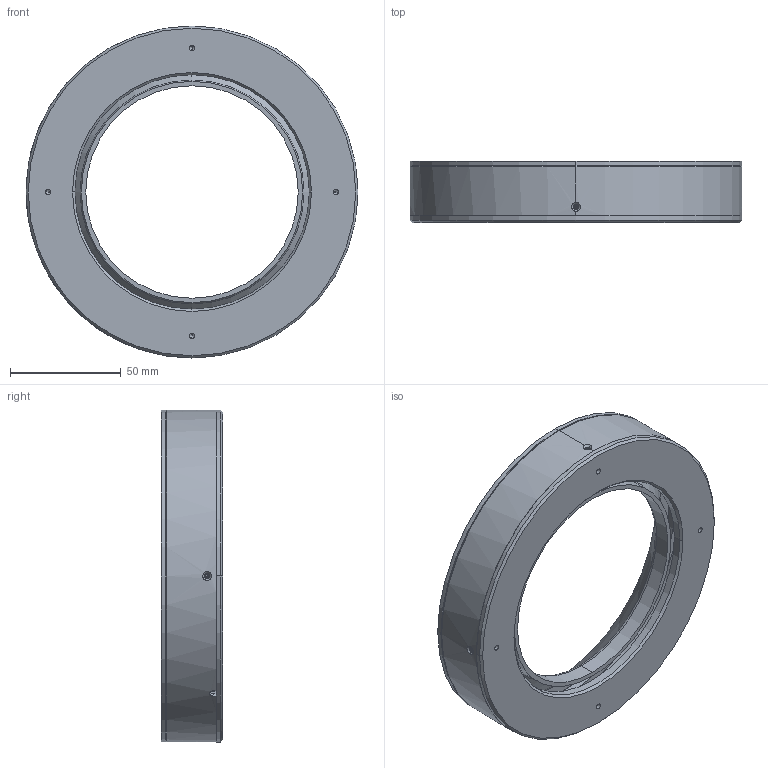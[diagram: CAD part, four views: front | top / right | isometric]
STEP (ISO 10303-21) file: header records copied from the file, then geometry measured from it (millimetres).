
FILE_DESCRIPTION (( 'STEP AP203' ), '1' );
FILE_NAME ('P-RL-150-45-00.STEP', '2025-09-16T10:43:36', ( '' ), ( '' ), 'SwSTEP 2.0', 'SolidWorks 2022', '' );
FILE_SCHEMA (( 'CONFIG_CONTROL_DESIGN' ));
Length unit declared in the file: millimetre
Products named in the file (4): P-RL-150-45; P-RL-150-45-002; P-RL-150-45-001; P-RL-150-45-00
Assembly tree (3 placements, depth 2):
  P-RL-150-45-00
    P-RL-150-45
    P-RL-150-45-001
    P-RL-150-45-002
Bounding box: 150 x 27.7 x 150 mm (x, y, z)
Volume: 117618.2 mm3; surface area: 84817 mm2
Topology: 3 solids, 3 shells, 138 faces, 348 edges, 206 vertices
Faces by surface type: cylinder 67, cone 49, plane 14, torus 8
Entity records: 4982 total; most frequent: CARTESIAN_POINT 1250, DIRECTION 736, ORIENTED_EDGE 664, EDGE_CURVE 332, AXIS2_PLACEMENT_3D 304, VERTEX_POINT 206, EDGE_LOOP 174, CIRCLE 160
